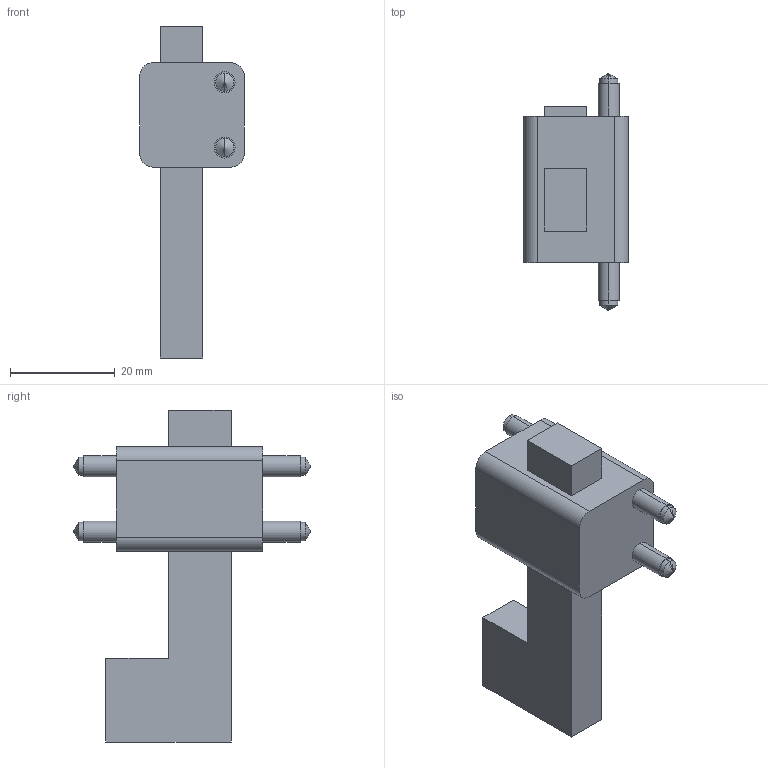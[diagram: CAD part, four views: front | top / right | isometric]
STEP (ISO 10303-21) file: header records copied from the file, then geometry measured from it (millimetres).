
FILE_DESCRIPTION (( 'STEP AP203' ), '1' );
FILE_NAME ('UU0812220_.STEP', '2014-10-21T07:02:08', ( '' ), ( '' ), 'SwSTEP 2.0', 'SolidWorks 2014', '' );
FILE_SCHEMA (( 'CONFIG_CONTROL_DESIGN' ));
Length unit declared in the file: millimetre
Products named in the file (1): UU0812220_
Bounding box: 20 x 45.4 x 63.5 mm (x, y, z)
Volume: 17274.7 mm3; surface area: 5624.6 mm2
Topology: 1 solids, 1 shells, 50 faces, 118 edges, 72 vertices
Faces by surface type: plane 22, cylinder 20, cone 8
Entity records: 1459 total; most frequent: DIRECTION 252, CARTESIAN_POINT 233, ORIENTED_EDGE 220, EDGE_CURVE 110, AXIS2_PLACEMENT_3D 91, VERTEX_POINT 72, VECTOR 70, LINE 70
